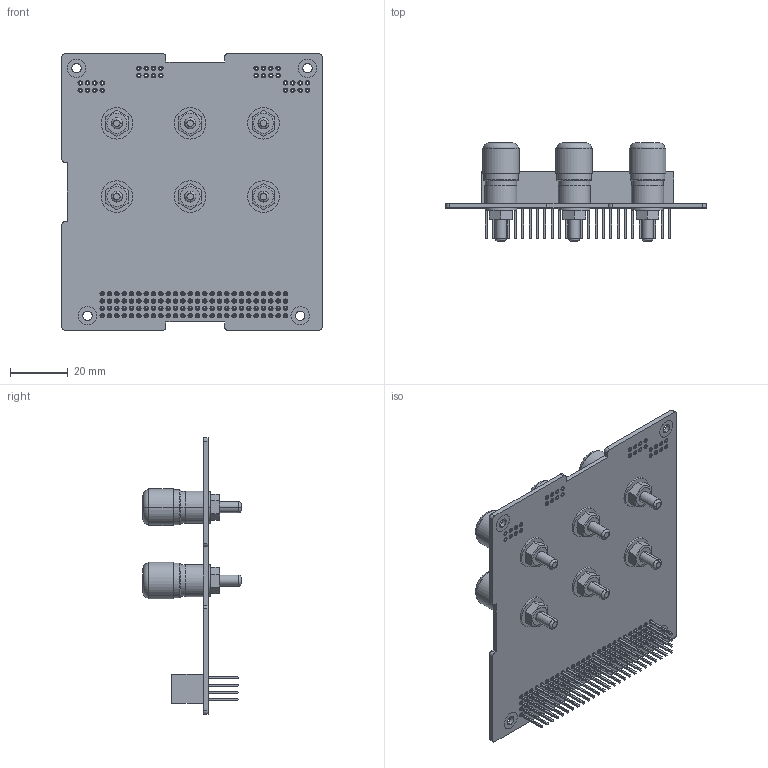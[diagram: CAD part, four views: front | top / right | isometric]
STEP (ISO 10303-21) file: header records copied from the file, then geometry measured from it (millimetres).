
FILE_DESCRIPTION (( 'STEP AP214' ), '1' );
FILE_NAME ('711-00651 Load Board (Test Board E) Rev A.STEP', '2017-01-19T21:06:34', ( '' ), ( '' ), 'SwSTEP 2.0', 'SolidWorks 2014', '' );
FILE_SCHEMA (( 'AUTOMOTIVE_DESIGN' ));
Length unit declared in the file: inch
Products named in the file (2): 711-00651 Load Board (Test Board E) Rev A
Bounding box: 90.17 x 33.96 x 95.89 mm (x, y, z)
Volume: 34717.8 mm3; surface area: 32564.9 mm2
Topology: 1 solids, 1 shells, 3191 faces, 7214 edges, 4510 vertices
Faces by surface type: plane 2317, cylinder 790, cone 48, torus 36
Entity records: 93649 total; most frequent: CARTESIAN_POINT 15241, DIRECTION 15192, ORIENTED_EDGE 14404, EDGE_CURVE 7202, VECTOR 5406, LINE 5406, AXIS2_PLACEMENT_3D 4893, VERTEX_POINT 4510
